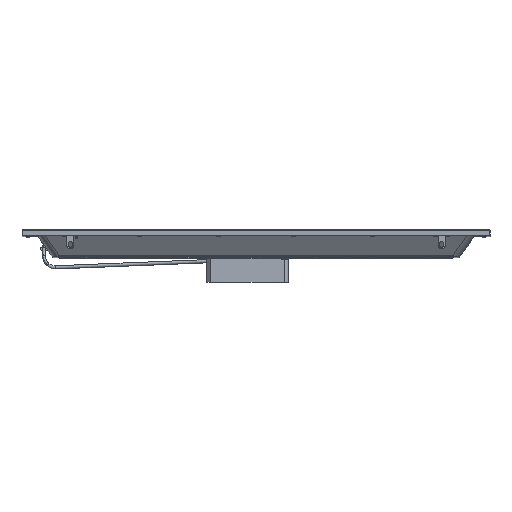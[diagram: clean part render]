
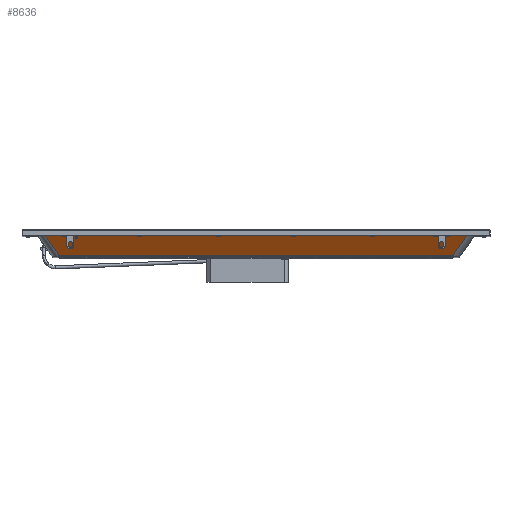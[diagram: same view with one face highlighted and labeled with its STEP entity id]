
A CAD part, top view. The second image highlights one B-rep face of the part: STEP entity #8636.
In plain terms, the highlighted planar face has unit normal (0, -0.574, 0.819).
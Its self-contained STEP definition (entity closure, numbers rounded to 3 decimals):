
#8636=ADVANCED_FACE('NONE',(#15127),#12225,.T.);
#12225=PLANE('',#75737);
#15127=FACE_OUTER_BOUND('',#19331,.T.);
#19331=EDGE_LOOP('',(#29152,#29153,#29154,#29155));
#29152=ORIENTED_EDGE('',*,*,#54312,.T.);
#29153=ORIENTED_EDGE('',*,*,#54284,.T.);
#29154=ORIENTED_EDGE('',*,*,#54313,.T.);
#29155=ORIENTED_EDGE('',*,*,#54314,.T.);
#46169=VERTEX_POINT('',#112515);
#46173=VERTEX_POINT('',#112566);
#46190=VERTEX_POINT('',#113073);
#46191=VERTEX_POINT('',#113075);
#54284=EDGE_CURVE('NONE',#46169,#46173,#63706,.T.);
#54312=EDGE_CURVE('NONE',#46190,#46169,#63716,.T.);
#54313=EDGE_CURVE('NONE',#46173,#46191,#63717,.T.);
#54314=EDGE_CURVE('NONE',#46191,#46190,#63718,.T.);
#63706=LINE('',#112567,#69962);
#63716=LINE('',#113072,#69972);
#63717=LINE('',#113074,#69973);
#63718=LINE('',#113076,#69974);
#69962=VECTOR('',#85541,1.);
#69972=VECTOR('',#85577,1.);
#69973=VECTOR('',#85578,1.);
#69974=VECTOR('',#85579,1.);
#75737=AXIS2_PLACEMENT_3D('',#113077,#85580,#85581);
#85541=DIRECTION('',(-1.,0.,0.));
#85577=DIRECTION('',(0.498,0.711,0.498));
#85578=DIRECTION('',(0.498,-0.711,-0.498));
#85579=DIRECTION('',(1.,0.,0.));
#85580=DIRECTION('',(0.,-0.574,0.819));
#85581=DIRECTION('',(0.,-0.819,-0.574));
#112515=CARTESIAN_POINT('',(282.622,-1239.338,292.452));
#112566=CARTESIAN_POINT('',(-282.622,-1239.338,292.452));
#112567=CARTESIAN_POINT('',(-293.,-1239.338,292.452));
#113072=CARTESIAN_POINT('',(140.54,-1442.252,150.37));
#113073=CARTESIAN_POINT('',(260.399,-1271.076,270.229));
#113074=CARTESIAN_POINT('',(-285.604,-1235.08,295.433));
#113075=CARTESIAN_POINT('',(-260.399,-1271.076,270.229));
#113076=CARTESIAN_POINT('',(-293.,-1271.076,270.229));
#113077=CARTESIAN_POINT('',(-293.,-1238.555,293.));
